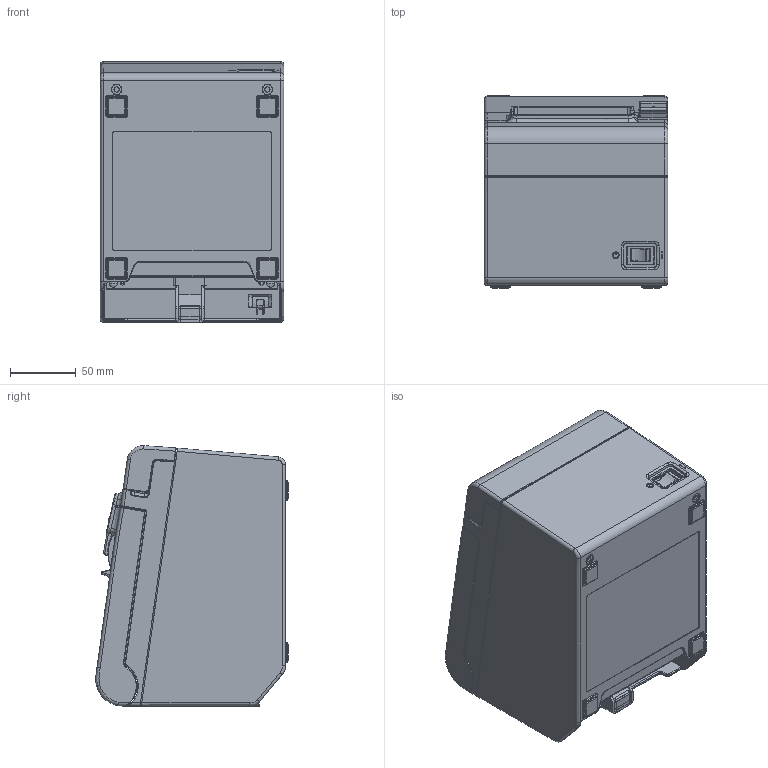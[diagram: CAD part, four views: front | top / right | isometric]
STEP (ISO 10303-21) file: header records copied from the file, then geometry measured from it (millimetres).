
FILE_DESCRIPTION((''),'2;1');
FILE_NAME('TM-T900F_CLOSE_SW','2025-01-28T14:28:58',('5012938'),(''),'CREO PARAMETRIC BY PTC INC, 2022281','CREO PARAMETRIC BY PTC INC, 2022281','');
FILE_SCHEMA(('AUTOMOTIVE_DESIGN { 1 0 10303 214 1 1 1 1 }'));
Products named in the file (1): TM-T900F_CLOSE_SW
Bounding box: 140 x 146.88 x 198.7 mm (x, y, z)
Surface area: 432632 mm2 (no closed solid volume)
Topology: 0 solids, 53 shells, 4056 faces, 11879 edges, 7787 vertices
Faces by surface type: plane 2220, cylinder 1255, bspline 298, torus 122, cone 116, sphere 37, extrusion 8
Entity records: 174198 total; most frequent: CARTESIAN_POINT 68975, ORIENTED_EDGE 22172, DIRECTION 20631, EDGE_CURVE 11867, VECTOR 7999, LINE 7991, VERTEX_POINT 7787, AXIS2_PLACEMENT_3D 6316
